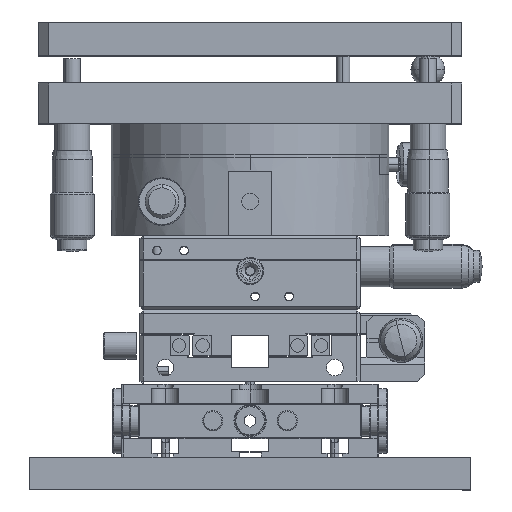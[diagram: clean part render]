
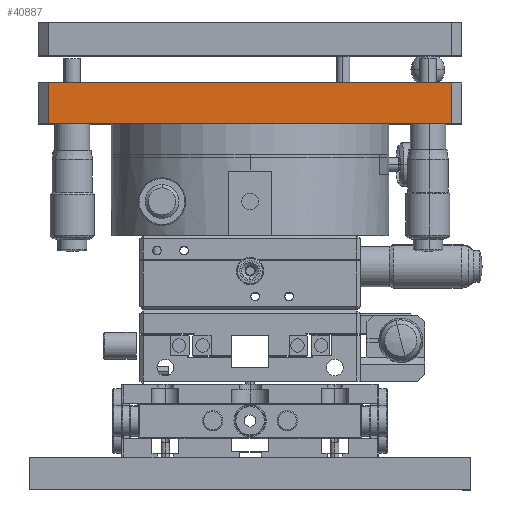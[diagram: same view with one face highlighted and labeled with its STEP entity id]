
A CAD part, top view. The second image highlights one B-rep face of the part: STEP entity #40887.
In plain terms, the highlighted planar face has unit normal (0, 0, 1).
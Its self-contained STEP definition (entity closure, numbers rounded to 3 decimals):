
#2606 = DIRECTION ( 'NONE',  ( 1., 0., 0. ) ) ;
#3516 = CARTESIAN_POINT ( 'NONE',  ( 102.195, 104.919, 163.685 ) ) ;
#6083 = ORIENTED_EDGE ( 'NONE', *, *, #14965, .T. ) ;
#8390 = DIRECTION ( 'NONE',  ( 0., 1., 0. ) ) ;
#8773 = VERTEX_POINT ( 'NONE', #10396 ) ;
#10396 = CARTESIAN_POINT ( 'NONE',  ( 102.195, 116.919, 163.685 ) ) ;
#14443 = ORIENTED_EDGE ( 'NONE', *, *, #50285, .T. ) ;
#14842 = CARTESIAN_POINT ( 'NONE',  ( -16.805, 116.919, 163.685 ) ) ;
#14965 = EDGE_CURVE ( 'NONE', #15278, #46698, #31401, .T. ) ;
#15278 = VERTEX_POINT ( 'NONE', #14842 ) ;
#15818 = VERTEX_POINT ( 'NONE', #3516 ) ;
#16687 = LINE ( 'NONE', #44049, #46872 ) ;
#16741 = DIRECTION ( 'NONE',  ( 0., 0., -1. ) ) ;
#17753 = ORIENTED_EDGE ( 'NONE', *, *, #45477, .F. ) ;
#20007 = CARTESIAN_POINT ( 'NONE',  ( -16.805, 116.919, 163.685 ) ) ;
#21907 = LINE ( 'NONE', #38449, #49014 ) ;
#22850 = DIRECTION ( 'NONE',  ( 1., 0., 0. ) ) ;
#23385 = CARTESIAN_POINT ( 'NONE',  ( 105.195, 116.919, 163.685 ) ) ;
#23756 = CARTESIAN_POINT ( 'NONE',  ( -16.805, 104.919, 163.685 ) ) ;
#28132 = DIRECTION ( 'NONE',  ( 0., -1., 0. ) ) ;
#28912 = VECTOR ( 'NONE', #35870, 1000. ) ;
#31401 = LINE ( 'NONE', #20007, #28912 ) ;
#33516 = LINE ( 'NONE', #23385, #36002 ) ;
#35870 = DIRECTION ( 'NONE',  ( 0., -1., 0. ) ) ;
#36002 = VECTOR ( 'NONE', #22850, 1000. ) ;
#38449 = CARTESIAN_POINT ( 'NONE',  ( 105.195, 104.919, 163.685 ) ) ;
#39434 = EDGE_LOOP ( 'NONE', ( #17753, #6083, #49934, #14443 ) ) ;
#40031 = CARTESIAN_POINT ( 'NONE',  ( 105.195, 116.919, 163.685 ) ) ;
#40887 = ADVANCED_FACE ( 'NONE', ( #46709 ), #42971, .F. ) ;
#42112 = EDGE_CURVE ( 'NONE', #46698, #15818, #21907, .T. ) ;
#42971 = PLANE ( 'NONE',  #44783 ) ;
#44049 = CARTESIAN_POINT ( 'NONE',  ( 102.195, 116.919, 163.685 ) ) ;
#44783 = AXIS2_PLACEMENT_3D ( 'NONE', #40031, #16741, #28132 ) ;
#45477 = EDGE_CURVE ( 'NONE', #15278, #8773, #33516, .T. ) ;
#46698 = VERTEX_POINT ( 'NONE', #23756 ) ;
#46709 = FACE_OUTER_BOUND ( 'NONE', #39434, .T. ) ;
#46872 = VECTOR ( 'NONE', #8390, 1000. ) ;
#49014 = VECTOR ( 'NONE', #2606, 1000. ) ;
#49934 = ORIENTED_EDGE ( 'NONE', *, *, #42112, .T. ) ;
#50285 = EDGE_CURVE ( 'NONE', #15818, #8773, #16687, .T. ) ;
